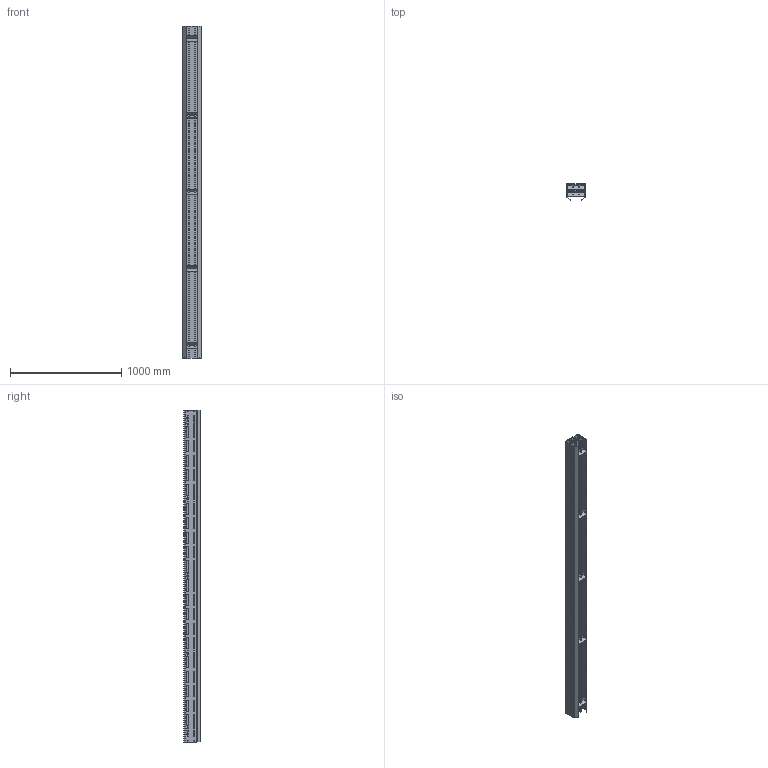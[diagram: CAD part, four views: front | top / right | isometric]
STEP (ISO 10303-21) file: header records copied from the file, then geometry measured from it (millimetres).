
FILE_DESCRIPTION (( 'STEP AP214' ), '1' );
FILE_NAME ('03.102S160.N FS-160-MTS2-100.INOX straight section L=2990.STEP', '2025-02-11T10:14:55', ( '' ), ( '' ), 'SwSTEP 2.0', 'SolidWorks 2024', '' );
FILE_SCHEMA (( 'AUTOMOTIVE_DESIGN' ));
Length unit declared in the file: millimetre
Products named in the file (1): 03.102S160.N FS-160-MTS2-100.INOX straight section L=2990
Bounding box: 167.5 x 145.63 x 2990 mm (x, y, z)
Volume: 12659202.4 mm3; surface area: 5605362.9 mm2
Topology: 20 solids, 20 shells, 1552 faces, 4536 edges, 3024 vertices
Faces by surface type: cylinder 930, plane 622
Entity records: 53706 total; most frequent: DIRECTION 9494, CARTESIAN_POINT 9137, ORIENTED_EDGE 9072, EDGE_CURVE 4536, AXIS2_PLACEMENT_3D 3413, VERTEX_POINT 3024, LINE 2668, VECTOR 2668
